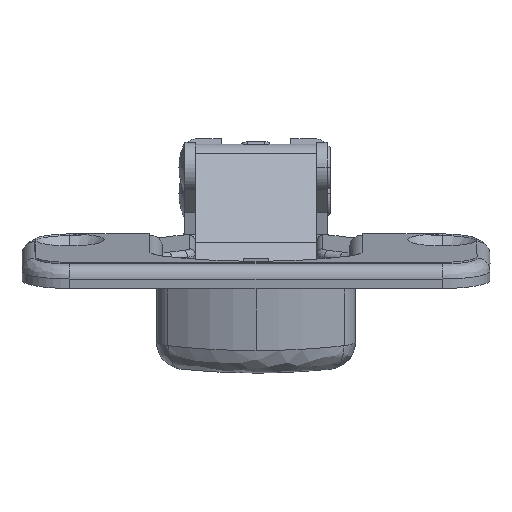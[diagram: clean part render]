
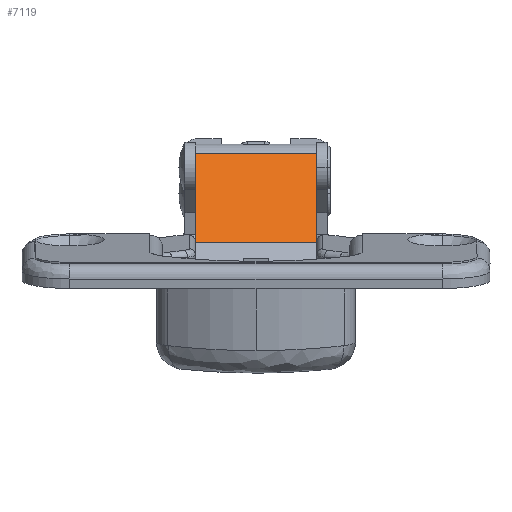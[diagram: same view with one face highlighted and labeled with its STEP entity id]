
A CAD part, top view. The second image highlights one B-rep face of the part: STEP entity #7119.
In plain terms, the highlighted planar face has unit normal (0, 0.588, 0.809) as drawn and (0.032, 0.999, 0) by its records, which use the part's own axes.
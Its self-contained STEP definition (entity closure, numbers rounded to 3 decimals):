
#2853 = VERTEX_POINT ( 'NONE', #19221 ) ;
#2913 = VERTEX_POINT ( 'NONE', #19159 ) ;
#2915 = VERTEX_POINT ( 'NONE', #19157 ) ;
#3040 = VERTEX_POINT ( 'NONE', #19032 ) ;
#3229 = ORIENTED_EDGE ( 'NONE', *, *, #14307, .T. ) ;
#3230 = ORIENTED_EDGE ( 'NONE', *, *, #14306, .T. ) ;
#3231 = ORIENTED_EDGE ( 'NONE', *, *, #14305, .F. ) ;
#7119 = ADVANCED_FACE ( 'NONE', ( #23473 ), #28465, .F. ) ;
#7791 = AXIS2_PLACEMENT_3D ( 'NONE', #28469, #28463, #28462 ) ;
#8826 = LINE ( 'NONE', #24786, #8829 ) ;
#8829 = VECTOR ( 'NONE', #24788, 1000. ) ;
#8868 = LINE ( 'NONE', #24924, #8888 ) ;
#8878 = LINE ( 'NONE', #24938, #8881 ) ;
#8880 = LINE ( 'NONE', #24942, #8885 ) ;
#8881 = VECTOR ( 'NONE', #24941, 1000. ) ;
#8885 = VECTOR ( 'NONE', #24946, 1000. ) ;
#8888 = VECTOR ( 'NONE', #24948, 1000. ) ;
#12248 = ORIENTED_EDGE ( 'NONE', *, *, #14276, .F. ) ;
#14276 = EDGE_CURVE ( 'NONE', #2913, #2915, #8826, .T. ) ;
#14305 = EDGE_CURVE ( 'NONE', #3040, #2913, #8878, .T. ) ;
#14306 = EDGE_CURVE ( 'NONE', #3040, #2853, #8880, .T. ) ;
#14307 = EDGE_CURVE ( 'NONE', #2853, #2915, #8868, .T. ) ;
#15293 = EDGE_LOOP ( 'NONE', ( #12248, #3231, #3230, #3229 ) ) ;
#19032 = CARTESIAN_POINT ( 'NONE',  ( 19.286, 2.699, 7. ) ) ;
#19157 = CARTESIAN_POINT ( 'NONE',  ( 6.561, 3.102, -7. ) ) ;
#19159 = CARTESIAN_POINT ( 'NONE',  ( 6.561, 3.102, 7. ) ) ;
#19221 = CARTESIAN_POINT ( 'NONE',  ( 19.286, 2.699, -7. ) ) ;
#23473 = FACE_OUTER_BOUND ( 'NONE', #15293, .T. ) ;
#24786 = CARTESIAN_POINT ( 'NONE',  ( 6.561, 3.102, 0. ) ) ;
#24788 = DIRECTION ( 'NONE',  ( 0., 0., -1. ) ) ;
#24924 = CARTESIAN_POINT ( 'NONE',  ( 6.561, 3.102, -7. ) ) ;
#24938 = CARTESIAN_POINT ( 'NONE',  ( 19.286, 2.699, 7. ) ) ;
#24941 = DIRECTION ( 'NONE',  ( -0.999, 0.032, 0. ) ) ;
#24942 = CARTESIAN_POINT ( 'NONE',  ( 19.286, 2.699, 0. ) ) ;
#24946 = DIRECTION ( 'NONE',  ( 0., 0., -1. ) ) ;
#24948 = DIRECTION ( 'NONE',  ( -0.999, 0.032, 0. ) ) ;
#28462 = DIRECTION ( 'NONE',  ( 0.999, -0.032, 0. ) ) ;
#28463 = DIRECTION ( 'NONE',  ( -0.032, -0.999, 0. ) ) ;
#28465 = PLANE ( 'NONE',  #7791 ) ;
#28469 = CARTESIAN_POINT ( 'NONE',  ( 6.561, 3.102, -7. ) ) ;
